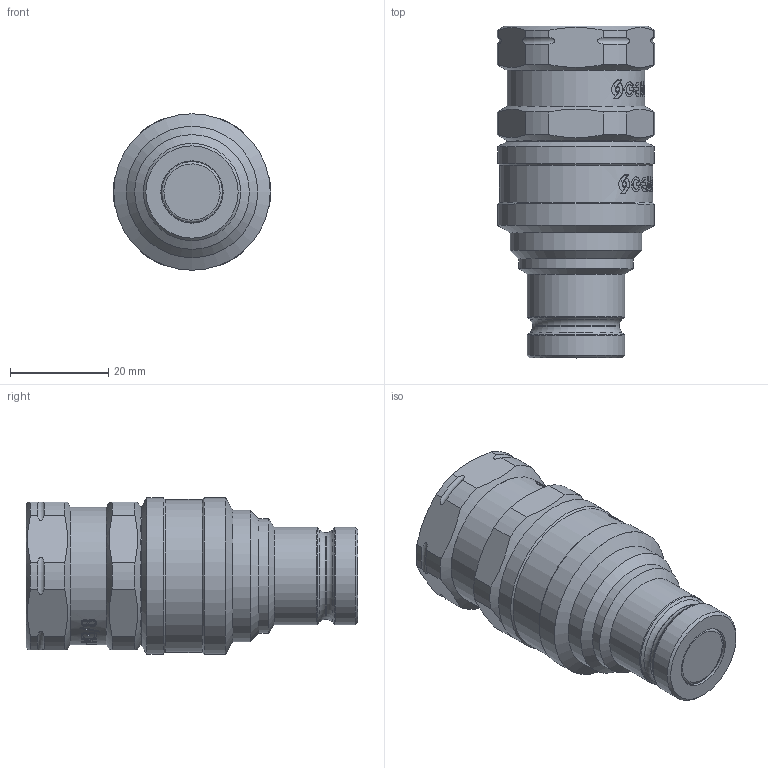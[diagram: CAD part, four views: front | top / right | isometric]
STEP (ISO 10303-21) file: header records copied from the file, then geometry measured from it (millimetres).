
FILE_DESCRIPTION(/* description */ (''),/* implementation_level */ '2;1');
FILE_NAME(/* name */ 'NC05N020000.stp',/* time_stamp */ '2024-08-09T15:09:22+02:00',/* author */ ('nicholas.facchinetti'),/* organization */ (''),/* preprocessor_version */ 'ST-DEVELOPER v19.2',/* originating_system */ 'Autodesk Inventor 2024',/* authorisation */ '');
FILE_SCHEMA (('AUTOMOTIVE_DESIGN { 1 0 10303 214 3 1 1 }'));
Length unit declared in the file: millimetre
Products named in the file (1): Parte10
Bounding box: 31.95 x 67.4 x 31.8 mm (x, y, z)
Volume: 36638.3 mm3; surface area: 8522.9 mm2
Topology: 1 solids, 1 shells, 1085 faces, 3087 edges, 2049 vertices
Faces by surface type: bspline 717, plane 258, cylinder 83, cone 16, torus 11
Full cylindrical faces by diameter (mm): 12.65 x1, 13.889 x1, 15.5 x1, 17.65 x1, 19.75 x2, 23.3 x1, 26 x1, 26.3 x1, 26.7 x1, 28 x1, 31.1 x1, 31.8 x2
Entity records: 47329 total; most frequent: CARTESIAN_POINT 22749, ORIENTED_EDGE 6174, EDGE_CURVE 3087, DIRECTION 2669, VERTEX_POINT 2049, B_SPLINE_CURVE_WITH_KNOTS 1496, LINE 1195, VECTOR 1195
